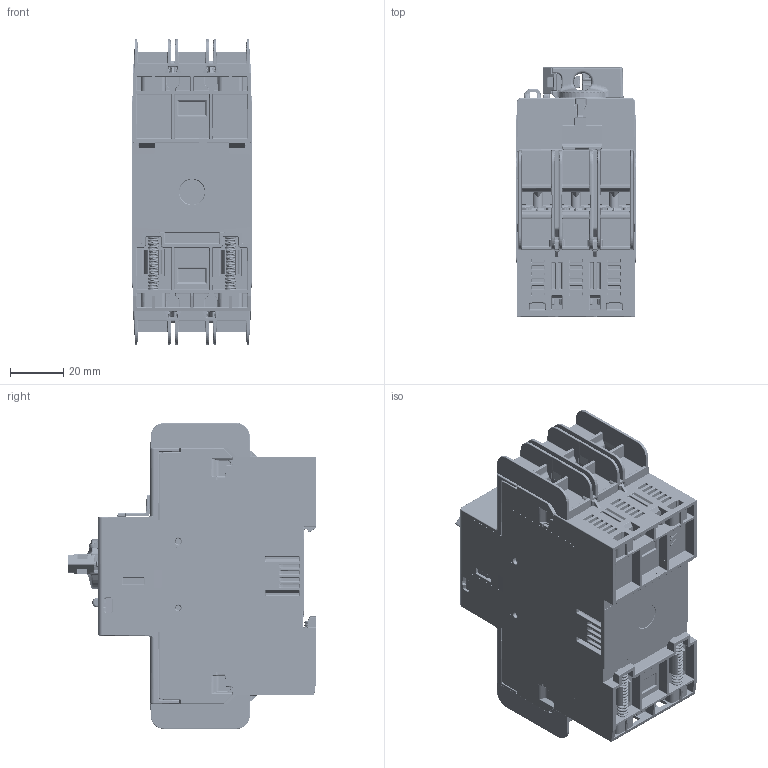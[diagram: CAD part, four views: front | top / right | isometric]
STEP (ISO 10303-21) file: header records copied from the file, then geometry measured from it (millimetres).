
FILE_DESCRIPTION((''),'2;1');
FILE_NAME('10005896815','2021-01-20T17:04:08',('RPampat'),('Rockwell Automation'),'CREO PARAMETRIC BY PTC INC, 2019444','CREO PARAMETRIC BY PTC INC, 2019444','');
FILE_SCHEMA(('CONFIG_CONTROL_DESIGN'));
Products named in the file (1): 10005896815
Bounding box: 44.86 x 93.68 x 115.1 mm (x, y, z)
Surface area: 107560.5 mm2
Topology: 62 solids, 64 shells, 24422 faces, 60898 edges, 35484 vertices
Faces by surface type: cylinder 9539, plane 6801, bspline 5082, sphere 1349, torus 1109, cone 305, extrusion 237
Entity records: 1081521 total; most frequent: CARTESIAN_POINT 559732, ORIENTED_EDGE 119489, DIRECTION 92876, EDGE_CURVE 59750, VERTEX_POINT 35485, AXIS2_PLACEMENT_3D 32405, VECTOR 28066, LINE 27829
